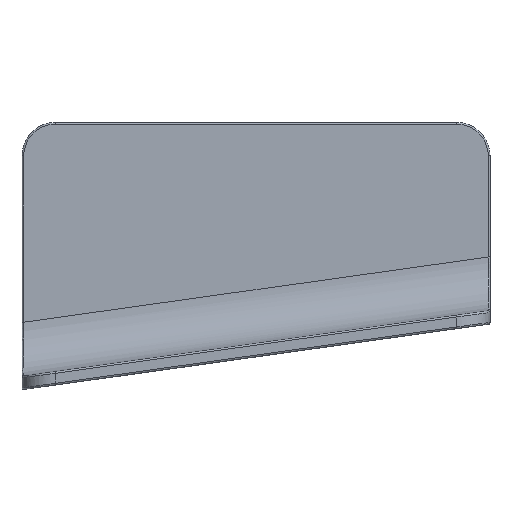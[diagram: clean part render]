
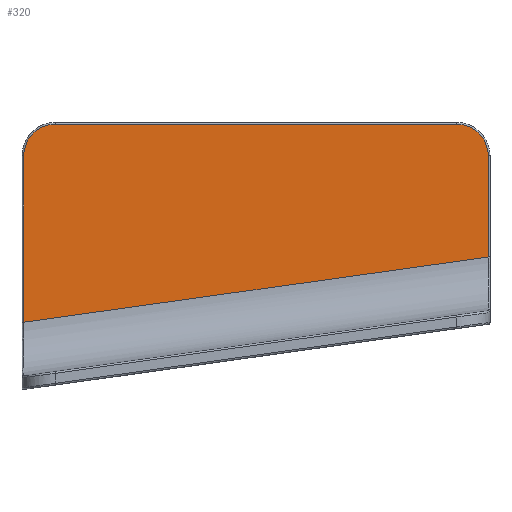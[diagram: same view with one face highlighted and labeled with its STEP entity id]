
A CAD part, top view. The second image highlights one B-rep face of the part: STEP entity #320.
In plain terms, the highlighted planar face has unit normal (0, 0, 1).
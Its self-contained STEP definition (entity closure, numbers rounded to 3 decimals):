
#135=FACE_OUTER_BOUND('',#1366,.T.);
#320=ADVANCED_FACE('',(#135),#511,.T.);
#511=PLANE('',#3425);
#771=LINE('',#4926,#1090);
#772=LINE('',#4929,#1091);
#773=LINE('',#4933,#1092);
#774=LINE('',#4937,#1093);
#1090=VECTOR('',#3854,1.);
#1091=VECTOR('',#3855,1.);
#1092=VECTOR('',#3858,1.);
#1093=VECTOR('',#3861,1.);
#1366=EDGE_LOOP('',(#1692,#1693,#1694,#1695,#1696,#1697));
#1692=ORIENTED_EDGE('',*,*,#2944,.T.);
#1693=ORIENTED_EDGE('',*,*,#2945,.T.);
#1694=ORIENTED_EDGE('',*,*,#2946,.T.);
#1695=ORIENTED_EDGE('',*,*,#2947,.T.);
#1696=ORIENTED_EDGE('',*,*,#2948,.T.);
#1697=ORIENTED_EDGE('',*,*,#2949,.T.);
#2646=VERTEX_POINT('',#4927);
#2647=VERTEX_POINT('',#4928);
#2648=VERTEX_POINT('',#4930);
#2649=VERTEX_POINT('',#4932);
#2650=VERTEX_POINT('',#4934);
#2651=VERTEX_POINT('',#4936);
#2944=EDGE_CURVE('',#2646,#2647,#771,.T.);
#2945=EDGE_CURVE('',#2647,#2648,#772,.T.);
#2946=EDGE_CURVE('',#2648,#2649,#3306,.T.);
#2947=EDGE_CURVE('',#2649,#2650,#773,.T.);
#2948=EDGE_CURVE('',#2650,#2651,#3307,.T.);
#2949=EDGE_CURVE('',#2651,#2646,#774,.T.);
#3306=CIRCLE('',#3423,9.5);
#3307=CIRCLE('',#3424,9.5);
#3423=AXIS2_PLACEMENT_3D('',#4931,#3856,#3857);
#3424=AXIS2_PLACEMENT_3D('',#4935,#3859,#3860);
#3425=AXIS2_PLACEMENT_3D('',#4938,#3862,#3863);
#3854=DIRECTION('',(0.99,0.139,0.));
#3855=DIRECTION('',(0.,1.,0.));
#3856=DIRECTION('',(0.,0.,1.));
#3857=DIRECTION('',(0.,-1.,0.));
#3858=DIRECTION('',(-1.,0.,0.));
#3859=DIRECTION('',(0.,0.,1.));
#3860=DIRECTION('',(0.,-1.,0.));
#3861=DIRECTION('',(0.,-1.,0.));
#3862=DIRECTION('',(0.,0.,1.));
#3863=DIRECTION('',(0.,-1.,0.));
#4926=CARTESIAN_POINT('',(135.062,39.139,4.));
#4927=CARTESIAN_POINT('',(0.5,20.228,4.));
#4928=CARTESIAN_POINT('',(139.5,39.763,4.));
#4929=CARTESIAN_POINT('',(139.5,70.,4.));
#4930=CARTESIAN_POINT('',(139.5,70.,4.));
#4931=CARTESIAN_POINT('',(130.,70.,4.));
#4932=CARTESIAN_POINT('',(130.,79.5,4.));
#4933=CARTESIAN_POINT('',(140.,79.5,4.));
#4934=CARTESIAN_POINT('',(10.,79.5,4.));
#4935=CARTESIAN_POINT('',(10.,70.,4.));
#4936=CARTESIAN_POINT('',(0.5,70.,4.));
#4937=CARTESIAN_POINT('',(0.5,4.,4.));
#4938=CARTESIAN_POINT('',(140.,4.,4.));
